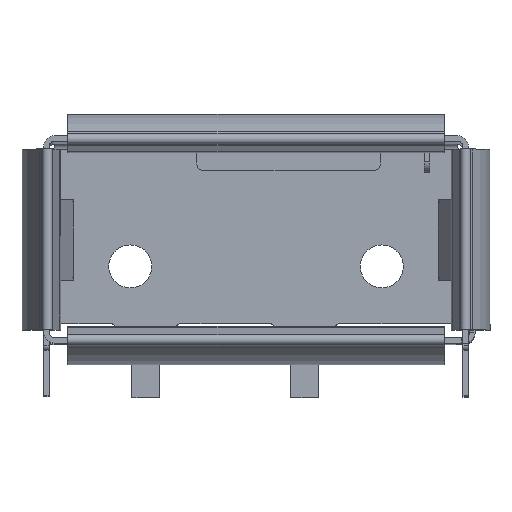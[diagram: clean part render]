
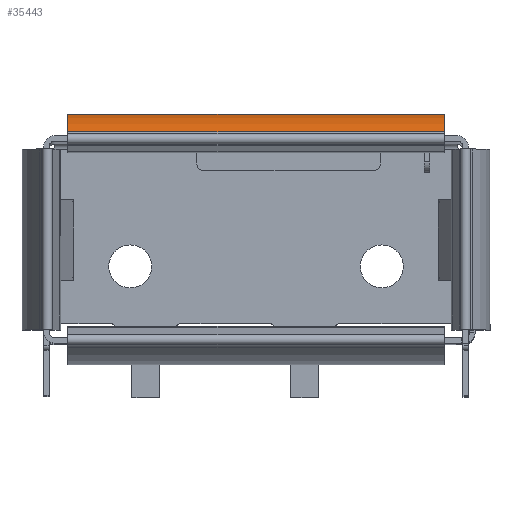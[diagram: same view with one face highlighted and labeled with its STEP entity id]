
A CAD part, top view. The second image highlights one B-rep face of the part: STEP entity #35443.
In plain terms, the highlighted cylindrical face has radius 4.886 mm (diameter 9.771 mm), a partial arc.
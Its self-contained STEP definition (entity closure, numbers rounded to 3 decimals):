
#10155=DIRECTION('',(1.,0.,0.));
#10156=VECTOR('',#10155,17.05);
#10157=CARTESIAN_POINT('',(1.676,11.752,
-7.335));
#10158=LINE('',#10157,#10156);
#10303=CARTESIAN_POINT('',(1.676,7.847,-4.4));
#10304=DIRECTION('',(1.,0.,0.));
#10305=DIRECTION('',(0.,0.799,-0.601));
#10306=AXIS2_PLACEMENT_3D('',#10303,#10304,#10305);
#10392=CARTESIAN_POINT('',(18.726,7.847,-4.4));
#10393=DIRECTION('',(-1.,0.,0.));
#10394=DIRECTION('',(0.,0.835,0.55));
#10395=AXIS2_PLACEMENT_3D('',#10392,#10393,#10394);
#10449=DIRECTION('',(1.,0.,0.));
#10450=VECTOR('',#10449,17.05);
#10451=CARTESIAN_POINT('',(1.676,11.925,
-1.711));
#10452=LINE('',#10451,#10450);
#20682=CARTESIAN_POINT('',(18.726,11.925,
-1.711));
#20683=VERTEX_POINT('',#20682);
#20684=CARTESIAN_POINT('',(1.676,11.925,
-1.711));
#20685=VERTEX_POINT('',#20684);
#20847=CARTESIAN_POINT('',(18.726,11.752,
-7.335));
#20849=VERTEX_POINT('',#20847);
#20850=CARTESIAN_POINT('',(1.676,11.752,
-7.335));
#20851=VERTEX_POINT('',#20850);
#35430=CARTESIAN_POINT('',(1.335,7.847,-4.4));
#35431=DIRECTION('',(1.,0.,0.));
#35432=DIRECTION('',(0.,0.,-1.));
#35433=AXIS2_PLACEMENT_3D('',#35430,#35431,#35432);
#35434=CYLINDRICAL_SURFACE('',#35433,4.886);
#35435=ORIENTED_EDGE('',*,*,#35081,.T.);
#35437=ORIENTED_EDGE('',*,*,#35436,.F.);
#35439=ORIENTED_EDGE('',*,*,#35438,.F.);
#35440=ORIENTED_EDGE('',*,*,#35402,.F.);
#35441=EDGE_LOOP('',(#35435,#35437,#35439,#35440));
#35442=FACE_OUTER_BOUND('',#35441,.F.);
#10307=CIRCLE('',#10306,4.886);
#10396=CIRCLE('',#10395,4.886);
#35081=EDGE_CURVE('',#20851,#20849,#10158,.T.);
#35402=EDGE_CURVE('',#20851,#20685,#10307,.T.);
#35436=EDGE_CURVE('',#20683,#20849,#10396,.T.);
#35438=EDGE_CURVE('',#20685,#20683,#10452,.T.);
#35443=ADVANCED_FACE('',(#35442),#35434,.T.);
